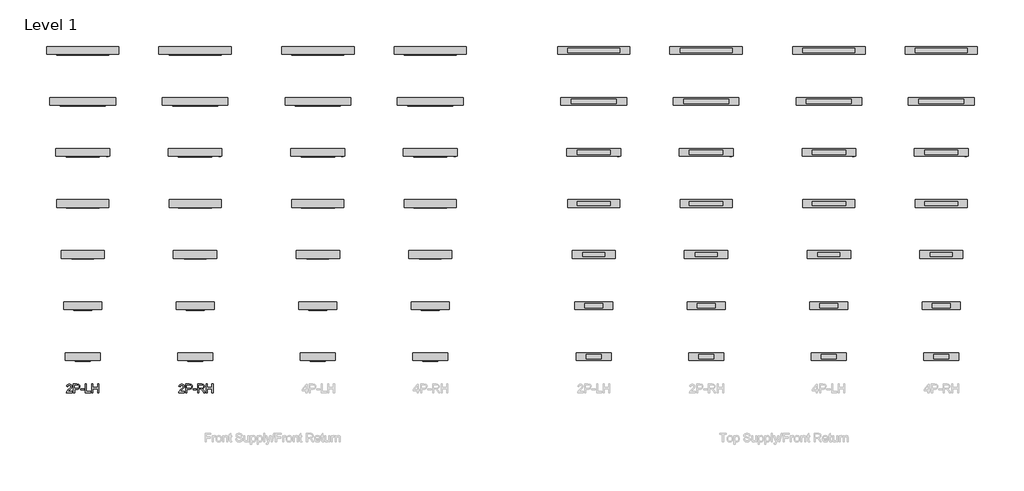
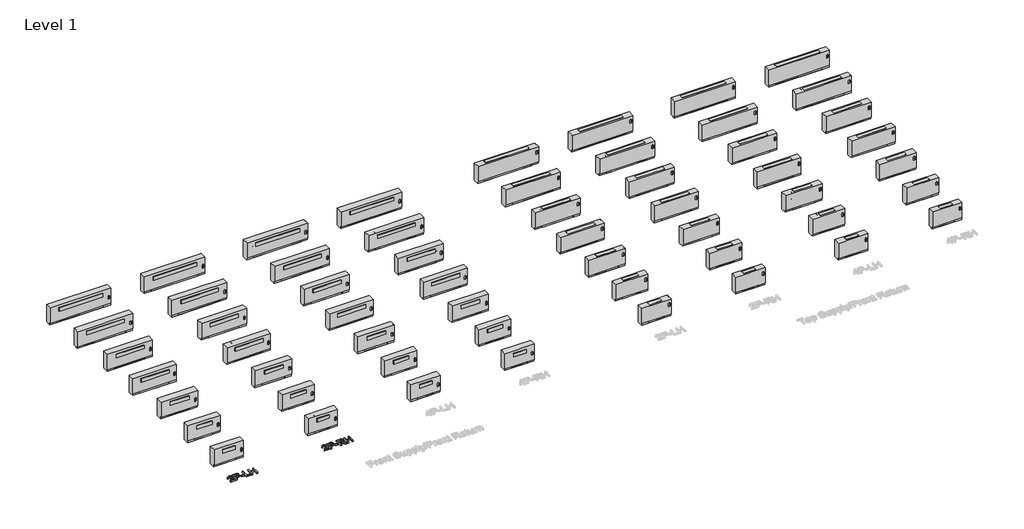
# One storey, part 1 of 3: 58 proxies.
"""IFC4 building model written with IfcOpenShell, lengths in millimetres."""

from ifc_helpers import new_model, si_unit, origin, origin_with_axes, place, context, project, spatial, polyline, outline, extrude, transform, mapped, element, save
from components import fxa_02_166d8ca6, fxa_02_dd02e0c0, fxa_02_5dcf8495, fxa_02_c9b70c98, fxa_02_18b34fc7, fxa_02_4a2c4ee7, fxa_02_1721e887, fxa_02_c29b171d, fxa_03_67163777, fxa_03_a5fb1bab, fxa_03_8632cc7d, fxa_03_1cd07f17, fxa_03_b8ff50d5, fxa_03_4b51dc12, fxa_03_145d4354, fxa_03_0b86ff3d, fxa_04_157f485f, fxa_04_6a423ed9, fxa_04_59fe42b9, fxa_04_52fef28c, fxa_04_2d9da2c2, fxa_04_99963d95, fxa_04_6abc8613, fxa_04_5441b333, fxa_06_4799669e, fxa_06_0686eac1, fxa_06_c5def053, fxa_06_6068cdc9, fxa_06_ef809db3, fxa_06_f428c453, fxa_06_47459137, fxa_06_2113a199, fxa_08_6734b92f, fxa_08_c117d953, fxa_08_58934757, fxa_08_aa406573, fxa_08_bbf97f14, fxa_08_503152b9, fxa_08_84f98a87, fxa_08_e378bd23, fxa_10_bdf55f92, fxa_10_9ed3e903, fxa_10_e9784f62, fxa_10_d59e50d3, fxa_10_dd2bd980, fxa_10_f746c035, fxa_10_7e9628c3, fxa_10_67cc4ca5, fxa_12_0588f1cb, fxa_12_c79f4add, fxa_12_9a9a52d2, fxa_12_8681195e, fxa_12_96722633, fxa_12_d5598fd8, fxa_12_60c66c87, fxa_12_ceffada1

model = new_model("IFC4")

# Units and contexts
model_context = context("Model", 3, world=origin())
ifc_project = project(units=[si_unit("LENGTHUNIT", "METRE", prefix="MILLI")], contexts=[model_context])

# Site, building, storey
site = spatial("IfcSite", under=ifc_project)
building = spatial("IfcBuilding", under=site)
storey = spatial("IfcBuildingStorey", under=building, Name="Level 1", Elevation=0.0)

# Proxies
placement = place(None, origin())
element("IfcBuildingElementProxy", 1, Name="24\" Arial", ObjectType="24\" Arial", at=placement, inside=storey, context=model_context, shape_type="SweptSolid", body=[
    extrude(outline(polyline([(-19722.253563, -2259.538898), (-19722.253563, -2291.4337764), (-19889.701675, -2291.4337764), (-19886.2754673, -2269.4437528), (-19878.4107634, -2252.2582067), (-19866.9018205, -2235.5865918), (-19826.9709277, -2198.6146965), (-19792.5531145, -2168.0435801), (-19771.9024266, -2145.4773306), (-19761.5770826, -2127.1626934), (-19758.1353013, -2109.3464136), (-19761.3824117, -2093.3756138), (-19771.123743, -2080.0990592), (-19786.0978278, -2071.1519851), (-19805.0431987, -2068.1696271), (-19824.9385636, -2071.0819036), (-19840.3954322, -2079.8187331), (-19850.3703686, -2093.6948741), (-19853.8199367, -2112.025085), (-19885.7148152, -2108.0382252), (-19877.9824875, -2077.1867827), (-19861.2641515, -2054.6516806), (-19836.4319329, -2040.8689816), (-19804.3579572, -2036.2747487), (-19772.0503764, -2041.3829128), (-19747.2648788, -2056.7074052), (-19731.4965368, -2079.6007017), (-19726.2404228, -2107.4152784), (-19731.9092391, -2137.6593477), (-19750.7533812, -2168.9312793), (-19796.4465323, -2212.6310005), (-19833.1381014, -2243.3111326), (-19847.5281736, -2259.538898), (-19722.253563, -2259.538898)])), origin_with_axes(), (0.0, 0.0, 1.0), 50.8),
    extrude(outline(polyline([(-19678.3981051, -2291.4337764), (-19678.3981051, -2036.2747487), (-19583.834774, -2036.2747487), (-19545.7104271, -2038.7042414), (-19528.7117651, -2043.2439665), (-19514.7188215, -2050.6336734), (-19503.4512705, -2061.2081961), (-19494.6287858, -2075.3023685), (-19488.9288222, -2091.9272624), (-19487.0288343, -2110.0939498), (-19492.1603589, -2140.1667088), (-19507.5549328, -2165.2247456), (-19519.8834402, -2175.0906663), (-19536.3428639, -2182.1377525), (-19556.9332038, -2186.3660042), (-19581.6544601, -2187.7754214), (-19646.5032266, -2187.7754214), (-19646.5032266, -2291.4337764), (-19678.3981051, -2291.4337764)]), holes=[polyline([(-19646.5032266, -2155.8805429), (-19579.7856195, -2155.8805429), (-19551.5038327, -2152.9526928), (-19532.8154274, -2144.1691422), (-19522.3966414, -2130.0749699), (-19518.9237127, -2111.2152541), (-19520.9716505, -2096.8874767), (-19527.1154638, -2084.8023079), (-19536.5920426, -2075.707284), (-19548.6382773, -2070.3499411), (-19580.5331557, -2068.1696271), (-19646.5032266, -2068.1696271), (-19646.5032266, -2155.8805429)])]), origin_with_axes(), (0.0, 0.0, 1.0), 50.8),
    extrude(outline(polyline([(-19463.1076754, -2215.6834401), (-19463.1076754, -2183.7885616), (-19363.4361802, -2183.7885616), (-19363.4361802, -2215.6834401), (-19463.1076754, -2215.6834401)])), origin_with_axes(), (0.0, 0.0, 1.0), 50.8),
    extrude(outline(polyline([(-19323.5675821, -2291.4337764), (-19323.5675821, -2036.2747487), (-19291.6727036, -2036.2747487), (-19291.6727036, -2259.538898), (-19164.0931897, -2259.538898), (-19164.0931897, -2291.4337764), (-19323.5675821, -2291.4337764)])), origin_with_axes(), (0.0, 0.0, 1.0), 50.8),
    extrude(outline(polyline([(-19128.2114515, -2291.4337764), (-19128.2114515, -2036.2747487), (-19096.316573, -2036.2747487), (-19096.316573, -2139.9331037), (-18960.7633395, -2139.9331037), (-18960.7633395, -2036.2747487), (-18928.868461, -2036.2747487), (-18928.868461, -2291.4337764), (-18960.7633395, -2291.4337764), (-18960.7633395, -2171.8279822), (-19096.316573, -2171.8279822), (-19096.316573, -2291.4337764), (-19128.2114515, -2291.4337764)])), origin_with_axes(), (0.0, 0.0, 1.0), 50.8),
])
element("IfcBuildingElementProxy", 2, Name="24\" Arial", ObjectType="24\" Arial", at=placement, inside=storey, context=model_context, shape_type="SweptSolid", body=[
    extrude(outline(polyline([(-16368.5749359, -2259.538898), (-16368.5749359, -2291.4337764), (-16536.0230479, -2291.4337764), (-16532.5968402, -2269.4437528), (-16524.7321363, -2252.2582067), (-16513.2231934, -2235.5865918), (-16473.2923006, -2198.6146965), (-16438.8744874, -2168.0435801), (-16418.2237995, -2145.4773306), (-16407.8984555, -2127.1626934), (-16404.4566742, -2109.3464136), (-16407.7037846, -2093.3756138), (-16417.4451159, -2080.0990592), (-16432.4192007, -2071.1519851), (-16451.3645716, -2068.1696271), (-16471.2599365, -2071.0819036), (-16486.7168051, -2079.8187331), (-16496.6917415, -2093.6948741), (-16500.1413096, -2112.025085), (-16532.0361881, -2108.0382252), (-16524.3038604, -2077.1867827), (-16507.5855244, -2054.6516806), (-16482.7533058, -2040.8689816), (-16450.6793301, -2036.2747487), (-16418.3717494, -2041.3829128), (-16393.5862517, -2056.7074052), (-16377.8179097, -2079.6007017), (-16372.5617957, -2107.4152784), (-16378.230612, -2137.6593477), (-16397.0747541, -2168.9312793), (-16442.7679052, -2212.6310005), (-16479.4594744, -2243.3111326), (-16493.8495465, -2259.538898), (-16368.5749359, -2259.538898)])), origin_with_axes(), (0.0, 0.0, 1.0), 50.8),
    extrude(outline(polyline([(-16324.719478, -2291.4337764), (-16324.719478, -2036.2747487), (-16230.1561469, -2036.2747487), (-16192.0318, -2038.7042414), (-16175.033138, -2043.2439665), (-16161.0401944, -2050.6336734), (-16149.7726434, -2061.2081961), (-16140.9501587, -2075.3023685), (-16135.2501951, -2091.9272624), (-16133.3502072, -2110.0939498), (-16138.4817318, -2140.1667088), (-16153.8763057, -2165.2247456), (-16166.2048131, -2175.0906663), (-16182.6642368, -2182.1377525), (-16203.2545768, -2186.3660042), (-16227.975833, -2187.7754214), (-16292.8245995, -2187.7754214), (-16292.8245995, -2291.4337764), (-16324.719478, -2291.4337764)]), holes=[polyline([(-16292.8245995, -2155.8805429), (-16226.1069924, -2155.8805429), (-16197.8252057, -2152.9526928), (-16179.1368003, -2144.1691422), (-16168.7180143, -2130.0749699), (-16165.2450857, -2111.2152541), (-16167.2930234, -2096.8874767), (-16173.4368367, -2084.8023079), (-16182.9134155, -2075.707284), (-16194.9596502, -2070.3499411), (-16226.8545286, -2068.1696271), (-16292.8245995, -2068.1696271), (-16292.8245995, -2155.8805429)])]), origin_with_axes(), (0.0, 0.0, 1.0), 50.8),
    extrude(outline(polyline([(-16109.4290483, -2215.6834401), (-16109.4290483, -2183.7885616), (-16009.7575531, -2183.7885616), (-16009.7575531, -2215.6834401), (-16109.4290483, -2215.6834401)])), origin_with_axes(), (0.0, 0.0, 1.0), 50.8),
    extrude(outline(polyline([(-15969.888955, -2291.4337764), (-15969.888955, -2036.2747487), (-15859.9388368, -2036.2747487), (-15830.3877959, -2037.9956393), (-15808.8883429, -2043.1583113), (-15793.1745087, -2052.689398), (-15780.9803242, -2067.5155329), (-15773.1545545, -2085.9002517), (-15770.5459646, -2106.10709), (-15774.8676583, -2131.2429952), (-15787.8327395, -2152.0805672), (-15809.83055, -2167.3583385), (-15841.2504315, -2175.814842), (-15823.1226783, -2189.4573779), (-15797.2703842, -2222.2866766), (-15754.7231147, -2291.4337764), (-15791.788452, -2291.4337764), (-15824.9915188, -2238.5455893), (-15848.9749724, -2203.5359766), (-15865.8256845, -2186.9967378), (-15880.9944402, -2180.9230061), (-15899.4959615, -2179.8017018), (-15937.9940765, -2179.8017018), (-15937.9940765, -2291.4337764), (-15969.888955, -2291.4337764)]), holes=[polyline([(-15937.9940765, -2147.9068233), (-15866.6043681, -2147.9068233), (-15830.193125, -2143.3904587), (-15818.2169719, -2137.5191847), (-15809.5112897, -2128.9380919), (-15804.2084547, -2118.5582401), (-15802.440843, -2107.290689), (-15805.8125428, -2091.7325915), (-15815.9276422, -2079.1957863), (-15833.3312197, -2070.9261669), (-15858.5683538, -2068.1696271), (-15937.9940765, -2068.1696271), (-15937.9940765, -2147.9068233)])]), origin_with_axes(), (0.0, 0.0, 1.0), 50.8),
    extrude(outline(polyline([(-15714.7299272, -2291.4337764), (-15714.7299272, -2036.2747487), (-15682.8350488, -2036.2747487), (-15682.8350488, -2139.9331037), (-15547.2818152, -2139.9331037), (-15547.2818152, -2036.2747487), (-15515.3869368, -2036.2747487), (-15515.3869368, -2291.4337764), (-15547.2818152, -2291.4337764), (-15547.2818152, -2171.8279822), (-15682.8350488, -2171.8279822), (-15682.8350488, -2291.4337764), (-15714.7299272, -2291.4337764)])), origin_with_axes(), (0.0, 0.0, 1.0), 50.8),
])
fxa_02_shape = fxa_02_166d8ca6(model_context)
element("IfcBuildingElementProxy", 3, Name="Vertical_Fan_Coil_Unit_-_FXA_-_IEC_-_2-Pipe_FS-FR_LH_2022 : FXA 02", ObjectType="Vertical_Fan_Coil_Unit_-_FXA_-_IEC_-_2-Pipe_FS-FR_LH_2022 : FXA 02", at=placement, inside=storey, context=model_context, shape_type="MappedRepresentation", body=[
    mapped(fxa_02_shape, transform((-19554.2915851, -1346.7031597, 0.0), x_axis=(1.0, 0.0, 0.0), y_axis=(0.0, 1.0, 0.0), z_axis=(0.0, 0.0, 1.0))),
])
fxa_02_2_shape = fxa_02_dd02e0c0(model_context)
element("IfcBuildingElementProxy", 4, Name="Vertical_Fan_Coil_Unit_-_FXA_-_IEC_-_2-Pipe_FS-FR_RH_2022 : FXA 02", ObjectType="Vertical_Fan_Coil_Unit_-_FXA_-_IEC_-_2-Pipe_FS-FR_RH_2022 : FXA 02", at=placement, inside=storey, context=model_context, shape_type="MappedRepresentation", body=[
    mapped(fxa_02_2_shape, transform((-16201.4915851, -1346.7031597, 0.0), x_axis=(1.0, 0.0, 0.0), y_axis=(0.0, 1.0, 0.0), z_axis=(0.0, 0.0, 1.0))),
])
fxa_02_3_shape = fxa_02_5dcf8495(model_context)
element("IfcBuildingElementProxy", 5, Name="Vertical_Fan_Coil_Unit_-_FXA_-_IEC_-_2-Pipe_TS-FR_LH_2022 : FXA 02", ObjectType="Vertical_Fan_Coil_Unit_-_FXA_-_IEC_-_2-Pipe_TS-FR_LH_2022 : FXA 02", at=placement, inside=storey, context=model_context, shape_type="MappedRepresentation", body=[
    mapped(fxa_02_3_shape, transform((-4314.2915851, -1346.7031597, 0.0), x_axis=(1.0, 0.0, 0.0), y_axis=(0.0, 1.0, 0.0), z_axis=(0.0, 0.0, 1.0))),
])
fxa_02_4_shape = fxa_02_c9b70c98(model_context)
element("IfcBuildingElementProxy", 6, Name="Vertical_Fan_Coil_Unit_-_FXA_-_IEC_-_2-Pipe_TS-FR_RH_2022 : FXA 02", ObjectType="Vertical_Fan_Coil_Unit_-_FXA_-_IEC_-_2-Pipe_TS-FR_RH_2022 : FXA 02", at=placement, inside=storey, context=model_context, shape_type="MappedRepresentation", body=[
    mapped(fxa_02_4_shape, transform((-961.4915851, -1346.7031597, 0.0), x_axis=(1.0, 0.0, 0.0), y_axis=(0.0, 1.0, 0.0), z_axis=(0.0, 0.0, 1.0))),
])
fxa_02_5_shape = fxa_02_18b34fc7(model_context)
element("IfcBuildingElementProxy", 7, Name="Vertical_Fan_Coil_Unit_-_FXA_-_IEC_-_4-Pipe_FS-FR_LH_2022 : FXA 02", ObjectType="Vertical_Fan_Coil_Unit_-_FXA_-_IEC_-_4-Pipe_FS-FR_LH_2022 : FXA 02", at=placement, inside=storey, context=model_context, shape_type="MappedRepresentation", body=[
    mapped(fxa_02_5_shape, transform((-12543.8915851, -1346.7031597, 0.0), x_axis=(1.0, 0.0, 0.0), y_axis=(0.0, 1.0, 0.0), z_axis=(0.0, 0.0, 1.0))),
])
fxa_02_6_shape = fxa_02_4a2c4ee7(model_context)
element("IfcBuildingElementProxy", 8, Name="Vertical_Fan_Coil_Unit_-_FXA_-_IEC_-_4-Pipe_FS-FR_RH_2022 : FXA 02", ObjectType="Vertical_Fan_Coil_Unit_-_FXA_-_IEC_-_4-Pipe_FS-FR_RH_2022 : FXA 02", at=placement, inside=storey, context=model_context, shape_type="MappedRepresentation", body=[
    mapped(fxa_02_6_shape, transform((-9191.0915851, -1346.7031597, 0.0), x_axis=(1.0, 0.0, 0.0), y_axis=(0.0, 1.0, 0.0), z_axis=(0.0, 0.0, 1.0))),
])
fxa_02_7_shape = fxa_02_1721e887(model_context)
element("IfcBuildingElementProxy", 9, Name="Vertical_Fan_Coil_Unit_-_FXA_-_IEC_-_4-Pipe_TS-FR_LH_2022 : FXA 02", ObjectType="Vertical_Fan_Coil_Unit_-_FXA_-_IEC_-_4-Pipe_TS-FR_LH_2022 : FXA 02", at=placement, inside=storey, context=model_context, shape_type="MappedRepresentation", body=[
    mapped(fxa_02_7_shape, transform((2696.1084149, -1346.7031597, 0.0), x_axis=(1.0, 0.0, 0.0), y_axis=(0.0, 1.0, 0.0), z_axis=(0.0, 0.0, 1.0))),
])
fxa_02_8_shape = fxa_02_c29b171d(model_context)
element("IfcBuildingElementProxy", 10, Name="Vertical_Fan_Coil_Unit_-_FXA_-_IEC_-_4-Pipe_TS-FR_RH_2022 : FXA 02", ObjectType="Vertical_Fan_Coil_Unit_-_FXA_-_IEC_-_4-Pipe_TS-FR_RH_2022 : FXA 02", at=placement, inside=storey, context=model_context, shape_type="MappedRepresentation", body=[
    mapped(fxa_02_8_shape, transform((6048.9084149, -1346.7031597, 0.0), x_axis=(1.0, 0.0, 0.0), y_axis=(0.0, 1.0, 0.0), z_axis=(0.0, 0.0, 1.0))),
])
fxa_03_shape = fxa_03_67163777(model_context)
element("IfcBuildingElementProxy", 11, Name="Vertical_Fan_Coil_Unit_-_FXA_-_IEC_-_2-Pipe_FS-FR_LH_2022 : FXA 03", ObjectType="Vertical_Fan_Coil_Unit_-_FXA_-_IEC_-_2-Pipe_FS-FR_LH_2022 : FXA 03", at=placement, inside=storey, context=model_context, shape_type="MappedRepresentation", body=[
    mapped(fxa_03_shape, transform((-19554.2915851, 177.2968403, 0.0), x_axis=(1.0, 0.0, 0.0), y_axis=(0.0, 1.0, 0.0), z_axis=(0.0, 0.0, 1.0))),
])
fxa_03_2_shape = fxa_03_a5fb1bab(model_context)
element("IfcBuildingElementProxy", 12, Name="Vertical_Fan_Coil_Unit_-_FXA_-_IEC_-_2-Pipe_FS-FR_RH_2022 : FXA 03", ObjectType="Vertical_Fan_Coil_Unit_-_FXA_-_IEC_-_2-Pipe_FS-FR_RH_2022 : FXA 03", at=placement, inside=storey, context=model_context, shape_type="MappedRepresentation", body=[
    mapped(fxa_03_2_shape, transform((-16201.4915851, 177.2968403, 0.0), x_axis=(1.0, 0.0, 0.0), y_axis=(0.0, 1.0, 0.0), z_axis=(0.0, 0.0, 1.0))),
])
fxa_03_3_shape = fxa_03_8632cc7d(model_context)
element("IfcBuildingElementProxy", 13, Name="Vertical_Fan_Coil_Unit_-_FXA_-_IEC_-_2-Pipe_TS-FR_LH_2022 : FXA 03", ObjectType="Vertical_Fan_Coil_Unit_-_FXA_-_IEC_-_2-Pipe_TS-FR_LH_2022 : FXA 03", at=placement, inside=storey, context=model_context, shape_type="MappedRepresentation", body=[
    mapped(fxa_03_3_shape, transform((-4314.2915851, 177.2968403, 0.0), x_axis=(1.0, 0.0, 0.0), y_axis=(0.0, 1.0, 0.0), z_axis=(0.0, 0.0, 1.0))),
])
fxa_03_4_shape = fxa_03_1cd07f17(model_context)
element("IfcBuildingElementProxy", 14, Name="Vertical_Fan_Coil_Unit_-_FXA_-_IEC_-_2-Pipe_TS-FR_RH_2022 : FXA 03", ObjectType="Vertical_Fan_Coil_Unit_-_FXA_-_IEC_-_2-Pipe_TS-FR_RH_2022 : FXA 03", at=placement, inside=storey, context=model_context, shape_type="MappedRepresentation", body=[
    mapped(fxa_03_4_shape, transform((-961.4915851, 177.2968403, 0.0), x_axis=(1.0, 0.0, 0.0), y_axis=(0.0, 1.0, 0.0), z_axis=(0.0, 0.0, 1.0))),
])
fxa_03_5_shape = fxa_03_b8ff50d5(model_context)
element("IfcBuildingElementProxy", 15, Name="Vertical_Fan_Coil_Unit_-_FXA_-_IEC_-_4-Pipe_FS-FR_LH_2022 : FXA 03", ObjectType="Vertical_Fan_Coil_Unit_-_FXA_-_IEC_-_4-Pipe_FS-FR_LH_2022 : FXA 03", at=placement, inside=storey, context=model_context, shape_type="MappedRepresentation", body=[
    mapped(fxa_03_5_shape, transform((-12543.8915851, 177.2968403, 0.0), x_axis=(1.0, 0.0, 0.0), y_axis=(0.0, 1.0, 0.0), z_axis=(0.0, 0.0, 1.0))),
])
fxa_03_6_shape = fxa_03_4b51dc12(model_context)
element("IfcBuildingElementProxy", 16, Name="Vertical_Fan_Coil_Unit_-_FXA_-_IEC_-_4-Pipe_FS-FR_RH_2022 : FXA 03", ObjectType="Vertical_Fan_Coil_Unit_-_FXA_-_IEC_-_4-Pipe_FS-FR_RH_2022 : FXA 03", at=placement, inside=storey, context=model_context, shape_type="MappedRepresentation", body=[
    mapped(fxa_03_6_shape, transform((-9191.0915851, 177.2968403, 0.0), x_axis=(1.0, 0.0, 0.0), y_axis=(0.0, 1.0, 0.0), z_axis=(0.0, 0.0, 1.0))),
])
fxa_03_7_shape = fxa_03_145d4354(model_context)
element("IfcBuildingElementProxy", 17, Name="Vertical_Fan_Coil_Unit_-_FXA_-_IEC_-_4-Pipe_TS-FR_LH_2022 : FXA 03", ObjectType="Vertical_Fan_Coil_Unit_-_FXA_-_IEC_-_4-Pipe_TS-FR_LH_2022 : FXA 03", at=placement, inside=storey, context=model_context, shape_type="MappedRepresentation", body=[
    mapped(fxa_03_7_shape, transform((2696.1084149, 177.2968403, 0.0), x_axis=(1.0, 0.0, 0.0), y_axis=(0.0, 1.0, 0.0), z_axis=(0.0, 0.0, 1.0))),
])
fxa_03_8_shape = fxa_03_0b86ff3d(model_context)
element("IfcBuildingElementProxy", 18, Name="Vertical_Fan_Coil_Unit_-_FXA_-_IEC_-_4-Pipe_TS-FR_RH_2022 : FXA 03", ObjectType="Vertical_Fan_Coil_Unit_-_FXA_-_IEC_-_4-Pipe_TS-FR_RH_2022 : FXA 03", at=placement, inside=storey, context=model_context, shape_type="MappedRepresentation", body=[
    mapped(fxa_03_8_shape, transform((6048.9084149, 177.2968403, 0.0), x_axis=(1.0, 0.0, 0.0), y_axis=(0.0, 1.0, 0.0), z_axis=(0.0, 0.0, 1.0))),
])
fxa_04_shape = fxa_04_157f485f(model_context)
element("IfcBuildingElementProxy", 19, Name="Vertical_Fan_Coil_Unit_-_FXA_-_IEC_-_2-Pipe_FS-FR_LH_2022 : FXA 04", ObjectType="Vertical_Fan_Coil_Unit_-_FXA_-_IEC_-_2-Pipe_FS-FR_LH_2022 : FXA 04", at=placement, inside=storey, context=model_context, shape_type="MappedRepresentation", body=[
    mapped(fxa_04_shape, transform((-19554.2915851, 1701.2968403, 0.0), x_axis=(1.0, 0.0, 0.0), y_axis=(0.0, 1.0, 0.0), z_axis=(0.0, 0.0, 1.0))),
])
fxa_04_2_shape = fxa_04_6a423ed9(model_context)
element("IfcBuildingElementProxy", 20, Name="Vertical_Fan_Coil_Unit_-_FXA_-_IEC_-_2-Pipe_FS-FR_RH_2022 : FXA 04", ObjectType="Vertical_Fan_Coil_Unit_-_FXA_-_IEC_-_2-Pipe_FS-FR_RH_2022 : FXA 04", at=placement, inside=storey, context=model_context, shape_type="MappedRepresentation", body=[
    mapped(fxa_04_2_shape, transform((-16201.4915851, 1701.2968403, 0.0), x_axis=(1.0, 0.0, 0.0), y_axis=(0.0, 1.0, 0.0), z_axis=(0.0, 0.0, 1.0))),
])
fxa_04_3_shape = fxa_04_59fe42b9(model_context)
element("IfcBuildingElementProxy", 21, Name="Vertical_Fan_Coil_Unit_-_FXA_-_IEC_-_2-Pipe_TS-FR_LH_2022 : FXA 04", ObjectType="Vertical_Fan_Coil_Unit_-_FXA_-_IEC_-_2-Pipe_TS-FR_LH_2022 : FXA 04", at=placement, inside=storey, context=model_context, shape_type="MappedRepresentation", body=[
    mapped(fxa_04_3_shape, transform((-4314.2915851, 1701.2968403, 0.0), x_axis=(1.0, 0.0, 0.0), y_axis=(0.0, 1.0, 0.0), z_axis=(0.0, 0.0, 1.0))),
])
fxa_04_4_shape = fxa_04_52fef28c(model_context)
element("IfcBuildingElementProxy", 22, Name="Vertical_Fan_Coil_Unit_-_FXA_-_IEC_-_2-Pipe_TS-FR_RH_2022 : FXA 04", ObjectType="Vertical_Fan_Coil_Unit_-_FXA_-_IEC_-_2-Pipe_TS-FR_RH_2022 : FXA 04", at=placement, inside=storey, context=model_context, shape_type="MappedRepresentation", body=[
    mapped(fxa_04_4_shape, transform((-961.4915851, 1701.2968403, 0.0), x_axis=(1.0, 0.0, 0.0), y_axis=(0.0, 1.0, 0.0), z_axis=(0.0, 0.0, 1.0))),
])
fxa_04_5_shape = fxa_04_2d9da2c2(model_context)
element("IfcBuildingElementProxy", 23, Name="Vertical_Fan_Coil_Unit_-_FXA_-_IEC_-_4-Pipe_FS-FR_LH_2022 : FXA 04", ObjectType="Vertical_Fan_Coil_Unit_-_FXA_-_IEC_-_4-Pipe_FS-FR_LH_2022 : FXA 04", at=placement, inside=storey, context=model_context, shape_type="MappedRepresentation", body=[
    mapped(fxa_04_5_shape, transform((-12543.8915851, 1701.2968403, 0.0), x_axis=(1.0, 0.0, 0.0), y_axis=(0.0, 1.0, 0.0), z_axis=(0.0, 0.0, 1.0))),
])
fxa_04_6_shape = fxa_04_99963d95(model_context)
element("IfcBuildingElementProxy", 24, Name="Vertical_Fan_Coil_Unit_-_FXA_-_IEC_-_4-Pipe_FS-FR_RH_2022 : FXA 04", ObjectType="Vertical_Fan_Coil_Unit_-_FXA_-_IEC_-_4-Pipe_FS-FR_RH_2022 : FXA 04", at=placement, inside=storey, context=model_context, shape_type="MappedRepresentation", body=[
    mapped(fxa_04_6_shape, transform((-9191.0915851, 1701.2968403, 0.0), x_axis=(1.0, 0.0, 0.0), y_axis=(0.0, 1.0, 0.0), z_axis=(0.0, 0.0, 1.0))),
])
fxa_04_7_shape = fxa_04_6abc8613(model_context)
element("IfcBuildingElementProxy", 25, Name="Vertical_Fan_Coil_Unit_-_FXA_-_IEC_-_4-Pipe_TS-FR_LH_2022 : FXA 04", ObjectType="Vertical_Fan_Coil_Unit_-_FXA_-_IEC_-_4-Pipe_TS-FR_LH_2022 : FXA 04", at=placement, inside=storey, context=model_context, shape_type="MappedRepresentation", body=[
    mapped(fxa_04_7_shape, transform((2696.1084149, 1701.2968403, 0.0), x_axis=(1.0, 0.0, 0.0), y_axis=(0.0, 1.0, 0.0), z_axis=(0.0, 0.0, 1.0))),
])
fxa_04_8_shape = fxa_04_5441b333(model_context)
element("IfcBuildingElementProxy", 26, Name="Vertical_Fan_Coil_Unit_-_FXA_-_IEC_-_4-Pipe_TS-FR_RH_2022 : FXA 04", ObjectType="Vertical_Fan_Coil_Unit_-_FXA_-_IEC_-_4-Pipe_TS-FR_RH_2022 : FXA 04", at=placement, inside=storey, context=model_context, shape_type="MappedRepresentation", body=[
    mapped(fxa_04_8_shape, transform((6048.9084149, 1701.2968403, 0.0), x_axis=(1.0, 0.0, 0.0), y_axis=(0.0, 1.0, 0.0), z_axis=(0.0, 0.0, 1.0))),
])
fxa_06_shape = fxa_06_4799669e(model_context)
element("IfcBuildingElementProxy", 27, Name="Vertical_Fan_Coil_Unit_-_FXA_-_IEC_-_2-Pipe_FS-FR_LH_2022 : FXA 06", ObjectType="Vertical_Fan_Coil_Unit_-_FXA_-_IEC_-_2-Pipe_FS-FR_LH_2022 : FXA 06", at=placement, inside=storey, context=model_context, shape_type="MappedRepresentation", body=[
    mapped(fxa_06_shape, transform((-19554.2915851, 3225.2968403, 0.0), x_axis=(1.0, 0.0, 0.0), y_axis=(0.0, 1.0, 0.0), z_axis=(0.0, 0.0, 1.0))),
])
fxa_06_2_shape = fxa_06_0686eac1(model_context)
element("IfcBuildingElementProxy", 28, Name="Vertical_Fan_Coil_Unit_-_FXA_-_IEC_-_2-Pipe_FS-FR_RH_2022 : FXA 06", ObjectType="Vertical_Fan_Coil_Unit_-_FXA_-_IEC_-_2-Pipe_FS-FR_RH_2022 : FXA 06", at=placement, inside=storey, context=model_context, shape_type="MappedRepresentation", body=[
    mapped(fxa_06_2_shape, transform((-16201.4915851, 3225.2968403, 0.0), x_axis=(1.0, 0.0, 0.0), y_axis=(0.0, 1.0, 0.0), z_axis=(0.0, 0.0, 1.0))),
])
fxa_06_3_shape = fxa_06_c5def053(model_context)
element("IfcBuildingElementProxy", 29, Name="Vertical_Fan_Coil_Unit_-_FXA_-_IEC_-_2-Pipe_TS-FR_LH_2022 : FXA 06", ObjectType="Vertical_Fan_Coil_Unit_-_FXA_-_IEC_-_2-Pipe_TS-FR_LH_2022 : FXA 06", at=placement, inside=storey, context=model_context, shape_type="MappedRepresentation", body=[
    mapped(fxa_06_3_shape, transform((-4314.2915851, 3225.2968403, 0.0), x_axis=(1.0, 0.0, 0.0), y_axis=(0.0, 1.0, 0.0), z_axis=(0.0, 0.0, 1.0))),
])
fxa_06_4_shape = fxa_06_6068cdc9(model_context)
element("IfcBuildingElementProxy", 30, Name="Vertical_Fan_Coil_Unit_-_FXA_-_IEC_-_2-Pipe_TS-FR_RH_2022 : FXA 06", ObjectType="Vertical_Fan_Coil_Unit_-_FXA_-_IEC_-_2-Pipe_TS-FR_RH_2022 : FXA 06", at=placement, inside=storey, context=model_context, shape_type="MappedRepresentation", body=[
    mapped(fxa_06_4_shape, transform((-961.4915851, 3225.2968403, 0.0), x_axis=(1.0, 0.0, 0.0), y_axis=(0.0, 1.0, 0.0), z_axis=(0.0, 0.0, 1.0))),
])
fxa_06_5_shape = fxa_06_ef809db3(model_context)
element("IfcBuildingElementProxy", 31, Name="Vertical_Fan_Coil_Unit_-_FXA_-_IEC_-_4-Pipe_FS-FR_LH_2022 : FXA 06", ObjectType="Vertical_Fan_Coil_Unit_-_FXA_-_IEC_-_4-Pipe_FS-FR_LH_2022 : FXA 06", at=placement, inside=storey, context=model_context, shape_type="MappedRepresentation", body=[
    mapped(fxa_06_5_shape, transform((-12543.8915851, 3225.2968403, 0.0), x_axis=(1.0, 0.0, 0.0), y_axis=(0.0, 1.0, 0.0), z_axis=(0.0, 0.0, 1.0))),
])
fxa_06_6_shape = fxa_06_f428c453(model_context)
element("IfcBuildingElementProxy", 32, Name="Vertical_Fan_Coil_Unit_-_FXA_-_IEC_-_4-Pipe_FS-FR_RH_2022 : FXA 06", ObjectType="Vertical_Fan_Coil_Unit_-_FXA_-_IEC_-_4-Pipe_FS-FR_RH_2022 : FXA 06", at=placement, inside=storey, context=model_context, shape_type="MappedRepresentation", body=[
    mapped(fxa_06_6_shape, transform((-9191.0915851, 3225.2968403, 0.0), x_axis=(1.0, 0.0, 0.0), y_axis=(0.0, 1.0, 0.0), z_axis=(0.0, 0.0, 1.0))),
])
fxa_06_7_shape = fxa_06_47459137(model_context)
element("IfcBuildingElementProxy", 33, Name="Vertical_Fan_Coil_Unit_-_FXA_-_IEC_-_4-Pipe_TS-FR_LH_2022 : FXA 06", ObjectType="Vertical_Fan_Coil_Unit_-_FXA_-_IEC_-_4-Pipe_TS-FR_LH_2022 : FXA 06", at=placement, inside=storey, context=model_context, shape_type="MappedRepresentation", body=[
    mapped(fxa_06_7_shape, transform((2696.1084149, 3225.2968403, 0.0), x_axis=(1.0, 0.0, 0.0), y_axis=(0.0, 1.0, 0.0), z_axis=(0.0, 0.0, 1.0))),
])
fxa_06_8_shape = fxa_06_2113a199(model_context)
element("IfcBuildingElementProxy", 34, Name="Vertical_Fan_Coil_Unit_-_FXA_-_IEC_-_4-Pipe_TS-FR_RH_2022 : FXA 06", ObjectType="Vertical_Fan_Coil_Unit_-_FXA_-_IEC_-_4-Pipe_TS-FR_RH_2022 : FXA 06", at=placement, inside=storey, context=model_context, shape_type="MappedRepresentation", body=[
    mapped(fxa_06_8_shape, transform((6048.9084149, 3225.2968403, 0.0), x_axis=(1.0, 0.0, 0.0), y_axis=(0.0, 1.0, 0.0), z_axis=(0.0, 0.0, 1.0))),
])
fxa_08_shape = fxa_08_6734b92f(model_context)
element("IfcBuildingElementProxy", 35, Name="Vertical_Fan_Coil_Unit_-_FXA_-_IEC_-_2-Pipe_FS-FR_LH_2022 : FXA 08", ObjectType="Vertical_Fan_Coil_Unit_-_FXA_-_IEC_-_2-Pipe_FS-FR_LH_2022 : FXA 08", at=placement, inside=storey, context=model_context, shape_type="MappedRepresentation", body=[
    mapped(fxa_08_shape, transform((-19554.2915851, 4749.2968403, 0.0), x_axis=(1.0, 0.0, 0.0), y_axis=(0.0, 1.0, 0.0), z_axis=(0.0, 0.0, 1.0))),
])
fxa_08_2_shape = fxa_08_c117d953(model_context)
element("IfcBuildingElementProxy", 36, Name="Vertical_Fan_Coil_Unit_-_FXA_-_IEC_-_2-Pipe_FS-FR_RH_2022 : FXA 08", ObjectType="Vertical_Fan_Coil_Unit_-_FXA_-_IEC_-_2-Pipe_FS-FR_RH_2022 : FXA 08", at=placement, inside=storey, context=model_context, shape_type="MappedRepresentation", body=[
    mapped(fxa_08_2_shape, transform((-16201.4915851, 4749.2968403, 0.0), x_axis=(1.0, 0.0, 0.0), y_axis=(0.0, 1.0, 0.0), z_axis=(0.0, 0.0, 1.0))),
])
fxa_08_3_shape = fxa_08_58934757(model_context)
element("IfcBuildingElementProxy", 37, Name="Vertical_Fan_Coil_Unit_-_FXA_-_IEC_-_2-Pipe_TS-FR_LH_2022 : FXA 08", ObjectType="Vertical_Fan_Coil_Unit_-_FXA_-_IEC_-_2-Pipe_TS-FR_LH_2022 : FXA 08", at=placement, inside=storey, context=model_context, shape_type="MappedRepresentation", body=[
    mapped(fxa_08_3_shape, transform((-4314.2915851, 4749.2968403, 0.0), x_axis=(1.0, 0.0, 0.0), y_axis=(0.0, 1.0, 0.0), z_axis=(0.0, 0.0, 1.0))),
])
fxa_08_4_shape = fxa_08_aa406573(model_context)
element("IfcBuildingElementProxy", 38, Name="Vertical_Fan_Coil_Unit_-_FXA_-_IEC_-_2-Pipe_TS-FR_RH_2022 : FXA 08", ObjectType="Vertical_Fan_Coil_Unit_-_FXA_-_IEC_-_2-Pipe_TS-FR_RH_2022 : FXA 08", at=placement, inside=storey, context=model_context, shape_type="MappedRepresentation", body=[
    mapped(fxa_08_4_shape, transform((-961.4915851, 4749.2968403, 0.0), x_axis=(1.0, 0.0, 0.0), y_axis=(0.0, 1.0, 0.0), z_axis=(0.0, 0.0, 1.0))),
])
fxa_08_5_shape = fxa_08_bbf97f14(model_context)
element("IfcBuildingElementProxy", 39, Name="Vertical_Fan_Coil_Unit_-_FXA_-_IEC_-_4-Pipe_FS-FR_LH_2022 : FXA 08", ObjectType="Vertical_Fan_Coil_Unit_-_FXA_-_IEC_-_4-Pipe_FS-FR_LH_2022 : FXA 08", at=placement, inside=storey, context=model_context, shape_type="MappedRepresentation", body=[
    mapped(fxa_08_5_shape, transform((-12543.8915851, 4749.2968403, 0.0), x_axis=(1.0, 0.0, 0.0), y_axis=(0.0, 1.0, 0.0), z_axis=(0.0, 0.0, 1.0))),
])
fxa_08_6_shape = fxa_08_503152b9(model_context)
element("IfcBuildingElementProxy", 40, Name="Vertical_Fan_Coil_Unit_-_FXA_-_IEC_-_4-Pipe_FS-FR_RH_2022 : FXA 08", ObjectType="Vertical_Fan_Coil_Unit_-_FXA_-_IEC_-_4-Pipe_FS-FR_RH_2022 : FXA 08", at=placement, inside=storey, context=model_context, shape_type="MappedRepresentation", body=[
    mapped(fxa_08_6_shape, transform((-9191.0915851, 4749.2968403, 0.0), x_axis=(1.0, 0.0, 0.0), y_axis=(0.0, 1.0, 0.0), z_axis=(0.0, 0.0, 1.0))),
])
fxa_08_7_shape = fxa_08_84f98a87(model_context)
element("IfcBuildingElementProxy", 41, Name="Vertical_Fan_Coil_Unit_-_FXA_-_IEC_-_4-Pipe_TS-FR_LH_2022 : FXA 08", ObjectType="Vertical_Fan_Coil_Unit_-_FXA_-_IEC_-_4-Pipe_TS-FR_LH_2022 : FXA 08", at=placement, inside=storey, context=model_context, shape_type="MappedRepresentation", body=[
    mapped(fxa_08_7_shape, transform((2696.1084149, 4749.2968403, 0.0), x_axis=(1.0, 0.0, 0.0), y_axis=(0.0, 1.0, 0.0), z_axis=(0.0, 0.0, 1.0))),
])
fxa_08_8_shape = fxa_08_e378bd23(model_context)
element("IfcBuildingElementProxy", 42, Name="Vertical_Fan_Coil_Unit_-_FXA_-_IEC_-_4-Pipe_TS-FR_RH_2022 : FXA 08", ObjectType="Vertical_Fan_Coil_Unit_-_FXA_-_IEC_-_4-Pipe_TS-FR_RH_2022 : FXA 08", at=placement, inside=storey, context=model_context, shape_type="MappedRepresentation", body=[
    mapped(fxa_08_8_shape, transform((6048.9084149, 4749.2968403, 0.0), x_axis=(1.0, 0.0, 0.0), y_axis=(0.0, 1.0, 0.0), z_axis=(0.0, 0.0, 1.0))),
])
fxa_10_shape = fxa_10_bdf55f92(model_context)
element("IfcBuildingElementProxy", 43, Name="Vertical_Fan_Coil_Unit_-_FXA_-_IEC_-_2-Pipe_FS-FR_LH_2022 : FXA 10", ObjectType="Vertical_Fan_Coil_Unit_-_FXA_-_IEC_-_2-Pipe_FS-FR_LH_2022 : FXA 10", at=placement, inside=storey, context=model_context, shape_type="MappedRepresentation", body=[
    mapped(fxa_10_shape, transform((-19554.2915851, 6273.2968403, 0.0), x_axis=(1.0, 0.0, 0.0), y_axis=(0.0, 1.0, 0.0), z_axis=(0.0, 0.0, 1.0))),
])
fxa_10_2_shape = fxa_10_9ed3e903(model_context)
element("IfcBuildingElementProxy", 44, Name="Vertical_Fan_Coil_Unit_-_FXA_-_IEC_-_2-Pipe_FS-FR_RH_2022 : FXA 10", ObjectType="Vertical_Fan_Coil_Unit_-_FXA_-_IEC_-_2-Pipe_FS-FR_RH_2022 : FXA 10", at=placement, inside=storey, context=model_context, shape_type="MappedRepresentation", body=[
    mapped(fxa_10_2_shape, transform((-16201.4915851, 6273.2968403, 0.0), x_axis=(1.0, 0.0, 0.0), y_axis=(0.0, 1.0, 0.0), z_axis=(0.0, 0.0, 1.0))),
])
fxa_10_3_shape = fxa_10_e9784f62(model_context)
element("IfcBuildingElementProxy", 45, Name="Vertical_Fan_Coil_Unit_-_FXA_-_IEC_-_2-Pipe_TS-FR_LH_2022 : FXA 10", ObjectType="Vertical_Fan_Coil_Unit_-_FXA_-_IEC_-_2-Pipe_TS-FR_LH_2022 : FXA 10", at=placement, inside=storey, context=model_context, shape_type="MappedRepresentation", body=[
    mapped(fxa_10_3_shape, transform((-4314.2915851, 6273.2968403, 0.0), x_axis=(1.0, 0.0, 0.0), y_axis=(0.0, 1.0, 0.0), z_axis=(0.0, 0.0, 1.0))),
])
fxa_10_4_shape = fxa_10_d59e50d3(model_context)
element("IfcBuildingElementProxy", 46, Name="Vertical_Fan_Coil_Unit_-_FXA_-_IEC_-_2-Pipe_TS-FR_RH_2022 : FXA 10", ObjectType="Vertical_Fan_Coil_Unit_-_FXA_-_IEC_-_2-Pipe_TS-FR_RH_2022 : FXA 10", at=placement, inside=storey, context=model_context, shape_type="MappedRepresentation", body=[
    mapped(fxa_10_4_shape, transform((-961.4915851, 6273.2968403, 0.0), x_axis=(1.0, 0.0, 0.0), y_axis=(0.0, 1.0, 0.0), z_axis=(0.0, 0.0, 1.0))),
])
fxa_10_5_shape = fxa_10_dd2bd980(model_context)
element("IfcBuildingElementProxy", 47, Name="Vertical_Fan_Coil_Unit_-_FXA_-_IEC_-_4-Pipe_FS-FR_LH_2022 : FXA 10", ObjectType="Vertical_Fan_Coil_Unit_-_FXA_-_IEC_-_4-Pipe_FS-FR_LH_2022 : FXA 10", at=placement, inside=storey, context=model_context, shape_type="MappedRepresentation", body=[
    mapped(fxa_10_5_shape, transform((-12543.8915851, 6273.2968403, 0.0), x_axis=(1.0, 0.0, 0.0), y_axis=(0.0, 1.0, 0.0), z_axis=(0.0, 0.0, 1.0))),
])
fxa_10_6_shape = fxa_10_f746c035(model_context)
element("IfcBuildingElementProxy", 48, Name="Vertical_Fan_Coil_Unit_-_FXA_-_IEC_-_4-Pipe_FS-FR_RH_2022 : FXA 10", ObjectType="Vertical_Fan_Coil_Unit_-_FXA_-_IEC_-_4-Pipe_FS-FR_RH_2022 : FXA 10", at=placement, inside=storey, context=model_context, shape_type="MappedRepresentation", body=[
    mapped(fxa_10_6_shape, transform((-9191.0915851, 6273.2968403, 0.0), x_axis=(1.0, 0.0, 0.0), y_axis=(0.0, 1.0, 0.0), z_axis=(0.0, 0.0, 1.0))),
])
fxa_10_7_shape = fxa_10_7e9628c3(model_context)
element("IfcBuildingElementProxy", 49, Name="Vertical_Fan_Coil_Unit_-_FXA_-_IEC_-_4-Pipe_TS-FR_LH_2022 : FXA 10", ObjectType="Vertical_Fan_Coil_Unit_-_FXA_-_IEC_-_4-Pipe_TS-FR_LH_2022 : FXA 10", at=placement, inside=storey, context=model_context, shape_type="MappedRepresentation", body=[
    mapped(fxa_10_7_shape, transform((2696.1084149, 6273.2968403, 0.0), x_axis=(1.0, 0.0, 0.0), y_axis=(0.0, 1.0, 0.0), z_axis=(0.0, 0.0, 1.0))),
])
fxa_10_8_shape = fxa_10_67cc4ca5(model_context)
element("IfcBuildingElementProxy", 50, Name="Vertical_Fan_Coil_Unit_-_FXA_-_IEC_-_4-Pipe_TS-FR_RH_2022 : FXA 10", ObjectType="Vertical_Fan_Coil_Unit_-_FXA_-_IEC_-_4-Pipe_TS-FR_RH_2022 : FXA 10", at=placement, inside=storey, context=model_context, shape_type="MappedRepresentation", body=[
    mapped(fxa_10_8_shape, transform((6048.9084149, 6273.2968403, 0.0), x_axis=(1.0, 0.0, 0.0), y_axis=(0.0, 1.0, 0.0), z_axis=(0.0, 0.0, 1.0))),
])
fxa_12_shape = fxa_12_0588f1cb(model_context)
element("IfcBuildingElementProxy", 51, Name="Vertical_Fan_Coil_Unit_-_FXA_-_IEC_-_2-Pipe_FS-FR_LH_2022 : FXA 12", ObjectType="Vertical_Fan_Coil_Unit_-_FXA_-_IEC_-_2-Pipe_FS-FR_LH_2022 : FXA 12", at=placement, inside=storey, context=model_context, shape_type="MappedRepresentation", body=[
    mapped(fxa_12_shape, transform((-19554.2915851, 7797.2968403, 0.0), x_axis=(1.0, 0.0, 0.0), y_axis=(0.0, 1.0, 0.0), z_axis=(0.0, 0.0, 1.0))),
])
fxa_12_2_shape = fxa_12_c79f4add(model_context)
element("IfcBuildingElementProxy", 52, Name="Vertical_Fan_Coil_Unit_-_FXA_-_IEC_-_2-Pipe_FS-FR_RH_2022 : FXA 12", ObjectType="Vertical_Fan_Coil_Unit_-_FXA_-_IEC_-_2-Pipe_FS-FR_RH_2022 : FXA 12", at=placement, inside=storey, context=model_context, shape_type="MappedRepresentation", body=[
    mapped(fxa_12_2_shape, transform((-16201.4915851, 7797.2968403, 0.0), x_axis=(1.0, 0.0, 0.0), y_axis=(0.0, 1.0, 0.0), z_axis=(0.0, 0.0, 1.0))),
])
fxa_12_3_shape = fxa_12_9a9a52d2(model_context)
element("IfcBuildingElementProxy", 53, Name="Vertical_Fan_Coil_Unit_-_FXA_-_IEC_-_2-Pipe_TS-FR_LH_2022 : FXA 12", ObjectType="Vertical_Fan_Coil_Unit_-_FXA_-_IEC_-_2-Pipe_TS-FR_LH_2022 : FXA 12", at=placement, inside=storey, context=model_context, shape_type="MappedRepresentation", body=[
    mapped(fxa_12_3_shape, transform((-4314.2915851, 7797.2968403, 0.0), x_axis=(1.0, 0.0, 0.0), y_axis=(0.0, 1.0, 0.0), z_axis=(0.0, 0.0, 1.0))),
])
fxa_12_4_shape = fxa_12_8681195e(model_context)
element("IfcBuildingElementProxy", 54, Name="Vertical_Fan_Coil_Unit_-_FXA_-_IEC_-_2-Pipe_TS-FR_RH_2022 : FXA 12", ObjectType="Vertical_Fan_Coil_Unit_-_FXA_-_IEC_-_2-Pipe_TS-FR_RH_2022 : FXA 12", at=placement, inside=storey, context=model_context, shape_type="MappedRepresentation", body=[
    mapped(fxa_12_4_shape, transform((-961.4915851, 7797.2968403, 0.0), x_axis=(1.0, 0.0, 0.0), y_axis=(0.0, 1.0, 0.0), z_axis=(0.0, 0.0, 1.0))),
])
fxa_12_5_shape = fxa_12_96722633(model_context)
element("IfcBuildingElementProxy", 55, Name="Vertical_Fan_Coil_Unit_-_FXA_-_IEC_-_4-Pipe_FS-FR_LH_2022 : FXA 12", ObjectType="Vertical_Fan_Coil_Unit_-_FXA_-_IEC_-_4-Pipe_FS-FR_LH_2022 : FXA 12", at=placement, inside=storey, context=model_context, shape_type="MappedRepresentation", body=[
    mapped(fxa_12_5_shape, transform((-12543.8915851, 7797.2968403, 0.0), x_axis=(1.0, 0.0, 0.0), y_axis=(0.0, 1.0, 0.0), z_axis=(0.0, 0.0, 1.0))),
])
fxa_12_6_shape = fxa_12_d5598fd8(model_context)
element("IfcBuildingElementProxy", 56, Name="Vertical_Fan_Coil_Unit_-_FXA_-_IEC_-_4-Pipe_FS-FR_RH_2022 : FXA 12", ObjectType="Vertical_Fan_Coil_Unit_-_FXA_-_IEC_-_4-Pipe_FS-FR_RH_2022 : FXA 12", at=placement, inside=storey, context=model_context, shape_type="MappedRepresentation", body=[
    mapped(fxa_12_6_shape, transform((-9191.0915851, 7797.2968403, 0.0), x_axis=(1.0, 0.0, 0.0), y_axis=(0.0, 1.0, 0.0), z_axis=(0.0, 0.0, 1.0))),
])
fxa_12_7_shape = fxa_12_60c66c87(model_context)
element("IfcBuildingElementProxy", 57, Name="Vertical_Fan_Coil_Unit_-_FXA_-_IEC_-_4-Pipe_TS-FR_LH_2022 : FXA 12", ObjectType="Vertical_Fan_Coil_Unit_-_FXA_-_IEC_-_4-Pipe_TS-FR_LH_2022 : FXA 12", at=placement, inside=storey, context=model_context, shape_type="MappedRepresentation", body=[
    mapped(fxa_12_7_shape, transform((2696.1084149, 7797.2968403, 0.0), x_axis=(1.0, 0.0, 0.0), y_axis=(0.0, 1.0, 0.0), z_axis=(0.0, 0.0, 1.0))),
])
fxa_12_8_shape = fxa_12_ceffada1(model_context)
element("IfcBuildingElementProxy", 58, Name="Vertical_Fan_Coil_Unit_-_FXA_-_IEC_-_4-Pipe_TS-FR_RH_2022 : FXA 12", ObjectType="Vertical_Fan_Coil_Unit_-_FXA_-_IEC_-_4-Pipe_TS-FR_RH_2022 : FXA 12", at=placement, inside=storey, context=model_context, shape_type="MappedRepresentation", body=[
    mapped(fxa_12_8_shape, transform((6048.9084149, 7797.2968403, 0.0), x_axis=(1.0, 0.0, 0.0), y_axis=(0.0, 1.0, 0.0), z_axis=(0.0, 0.0, 1.0))),
])

save(model, "model.ifc")
